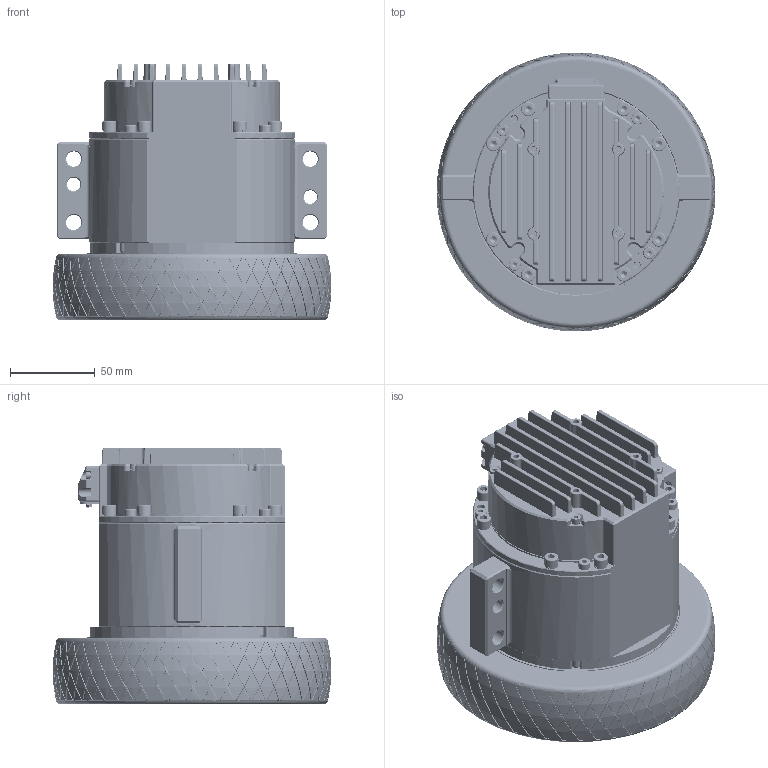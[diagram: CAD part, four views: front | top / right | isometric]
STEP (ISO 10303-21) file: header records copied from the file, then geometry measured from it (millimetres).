
FILE_DESCRIPTION (( 'STEP AP203' ), '1' );
FILE_NAME ('9.5360-俋褲.STEP', '2022-08-23T07:44:12', ( '' ), ( '' ), 'SwSTEP 2.0', 'SolidWorks 2018', '' );
FILE_SCHEMA (( 'CONFIG_CONTROL_DESIGN' ));
Length unit declared in the file: millimetre
Products named in the file (1): 9.5360-俋褲
Bounding box: 164.92 x 165 x 152.05 mm (x, y, z)
Volume: 1260556.9 mm3; surface area: 441630.7 mm2
Topology: 382 solids, 382 shells, 7945 faces, 19282 edges, 12122 vertices
Faces by surface type: plane 4255, cylinder 1297, bspline 997, cone 559, torus 507, sphere 330
Entity records: 272487 total; most frequent: CARTESIAN_POINT 97891, ORIENTED_EDGE 38362, DIRECTION 31834, EDGE_CURVE 19181, VERTEX_POINT 12122, AXIS2_PLACEMENT_3D 11284, VECTOR 9266, LINE 9266
